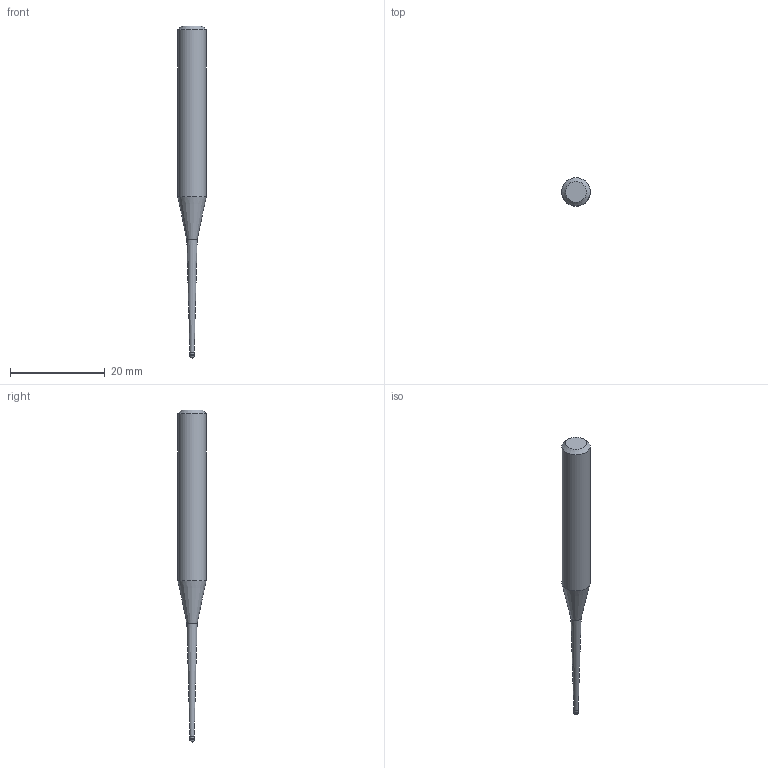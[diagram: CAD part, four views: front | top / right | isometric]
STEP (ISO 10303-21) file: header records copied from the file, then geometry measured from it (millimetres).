
FILE_DESCRIPTION((''),'2;1');
FILE_NAME('C:\Users\nsx150\AppData\Local\Temp\Mastercam 2021\E0ENTZRV18\TEMP.step','2021-09-02T09:56:12',(''),(''),'STEP Write','Mastercam 2021 ... CNC Software, Inc.','');
FILE_SCHEMA(('AUTOMOTIVE_DESIGN'));
Length unit declared in the file: millimetre
Products named in the file (1): None
Bounding box: 6 x 6 x 70 mm (x, y, z)
Volume: 1186.2 mm3; surface area: 935.2 mm2
Topology: 2 solids, 2 shells, 10 faces, 16 edges, 9 vertices
Faces by surface type: plane 3, cylinder 3, cone 3, sphere 1
Full cylindrical faces by diameter (mm): 0.905 x1, 1 x1, 6 x1
Entity records: 232 total; most frequent: DIRECTION 40, CARTESIAN_POINT 28, AXIS2_PLACEMENT_3D 20, ORIENTED_EDGE 16, EDGE_LOOP 16, STYLED_ITEM 13, ADVANCED_FACE 10, FACE_BOUND 9
